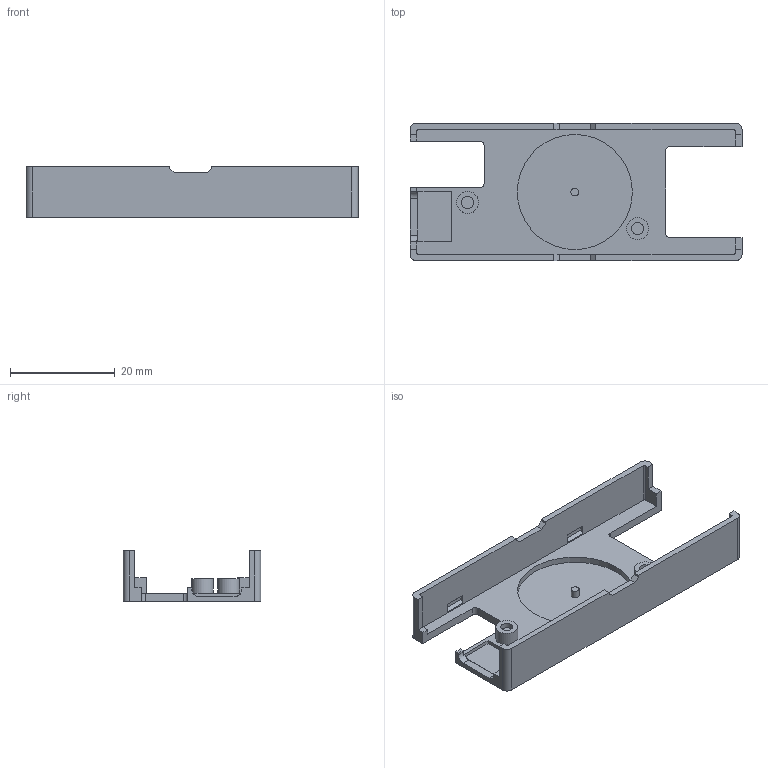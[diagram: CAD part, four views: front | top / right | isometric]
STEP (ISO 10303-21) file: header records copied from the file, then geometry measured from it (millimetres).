
FILE_DESCRIPTION(('Open CASCADE Model'),'2;1');
FILE_NAME('Open CASCADE Shape Model','2026-11-23T18:46:07',('Author'),( 'Open CASCADE'),'Open CASCADE STEP processor 7.9','Open CASCADE 7.9' ,'Unknown');
FILE_SCHEMA(('AUTOMOTIVE_DESIGN { 1 0 10303 214 1 1 1 1 }'));
Length unit declared in the file: millimetre
Products named in the file (1): Open CASCADE STEP translator 7.9 2
Bounding box: 63.45 x 26.3 x 9.7 mm (x, y, z)
Volume: 2877.3 mm3; surface area: 5291.9 mm2
Topology: 1 solids, 1 shells, 100 faces, 261 edges, 174 vertices
Faces by surface type: plane 79, cylinder 21
Full cylindrical faces by diameter (mm): 1.2 x1, 1.5 x1, 2.3 x2, 4.2 x2, 22 x1
Entity records: 6545 total; most frequent: CARTESIAN_POINT 1244, DIRECTION 998, LINE 695, VECTOR 695, ORIENTED_EDGE 522, PCURVE 522, DEFINITIONAL_REPRESENTATION 522, EDGE_CURVE 261
